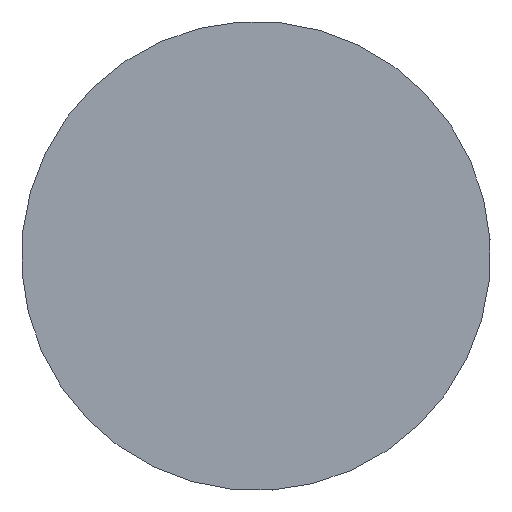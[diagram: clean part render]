
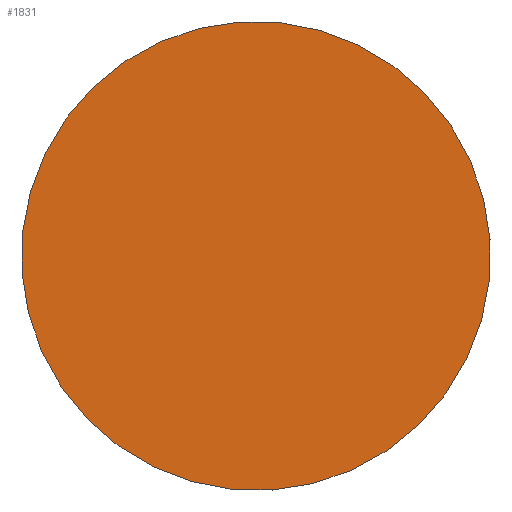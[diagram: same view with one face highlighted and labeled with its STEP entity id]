
A CAD part, left-side view. The second image highlights one B-rep face of the part: STEP entity #1831.
In plain terms, the highlighted planar face has unit normal (-1, 0, 0).
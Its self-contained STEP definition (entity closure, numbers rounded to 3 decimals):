
#1808=CARTESIAN_POINT('',(-49.456,-23.8,21.737));
#1809=VERTEX_POINT('',#1808);
#1810=CARTESIAN_POINT('',(-49.456,25.085,0.));
#1811=DIRECTION('',(-1.0,0.,0.));
#1812=DIRECTION('',(0.,-0.914,0.406));
#1813=AXIS2_PLACEMENT_3D('',#1810,#1811,#1812);
#1814=CIRCLE('',#1813,53.5);
#1815=EDGE_CURVE('',#1809,#1809,#1814,.T.);
#1823=CARTESIAN_POINT('',(-49.456,-17.632,18.994));
#1824=DIRECTION('',(-1.0,0.0,0.0));
#1825=DIRECTION('',(0.0,0.406,0.914));
#1826=AXIS2_PLACEMENT_3D('',#1823,#1824,#1825);
#1827=PLANE('',#1826);
#1828=ORIENTED_EDGE('',*,*,#1815,.T.);
#1829=EDGE_LOOP('',(#1828));
#1830=FACE_OUTER_BOUND('',#1829,.T.);
#1831=ADVANCED_FACE('',(#1830),#1827,.T.);
